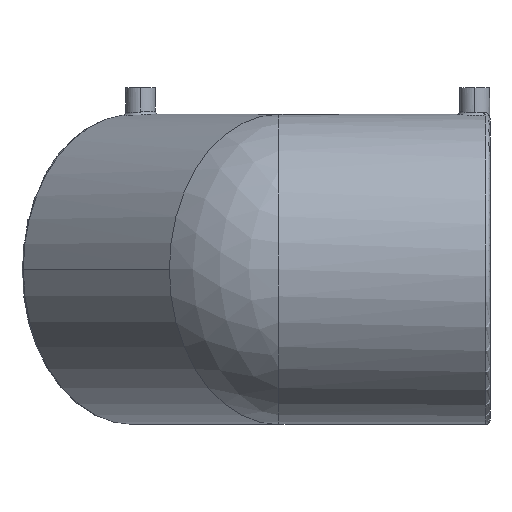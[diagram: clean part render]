
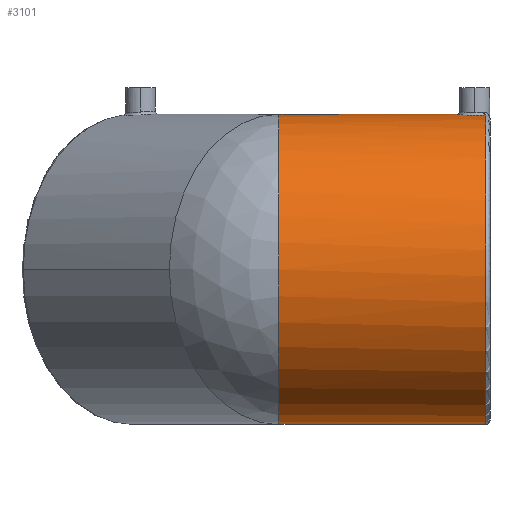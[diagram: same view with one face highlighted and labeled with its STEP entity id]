
A CAD part, left-side view. The second image highlights one B-rep face of the part: STEP entity #3101.
In plain terms, the highlighted cylindrical face has radius 106.5 mm (diameter 213 mm), a partial arc.
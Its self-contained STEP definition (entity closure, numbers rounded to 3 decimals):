
#211 = AXIS2_PLACEMENT_3D ( 'NONE', #2670, #2149, #2028 ) ;
#213 = ORIENTED_EDGE ( 'NONE', *, *, #873, .T. ) ;
#313 = CARTESIAN_POINT ( 'NONE',  ( 0., -142., -106.5 ) ) ;
#330 = AXIS2_PLACEMENT_3D ( 'NONE', #2489, #2562, #2586 ) ;
#386 = AXIS2_PLACEMENT_3D ( 'NONE', #827, #896, #776 ) ;
#535 = VERTEX_POINT ( 'NONE', #313 ) ;
#623 = CYLINDRICAL_SURFACE ( 'NONE', #386, 106.5 ) ;
#771 = EDGE_CURVE ( 'NONE', #535, #2143, #1236, .T. ) ;
#776 = DIRECTION ( 'NONE',  ( 0., 0., 1. ) ) ;
#782 = DIRECTION ( 'NONE',  ( 0., 1., 0. ) ) ;
#827 = CARTESIAN_POINT ( 'NONE',  ( 0., -145., 0. ) ) ;
#873 = EDGE_CURVE ( 'NONE', #2304, #3175, #1182, .T. ) ;
#896 = DIRECTION ( 'NONE',  ( 0., 1., 0. ) ) ;
#952 = CIRCLE ( 'NONE', #211, 106.5 ) ;
#1018 = CARTESIAN_POINT ( 'NONE',  ( 0., 0., -106.5 ) ) ;
#1054 = CIRCLE ( 'NONE', #330, 106.5 ) ;
#1182 = LINE ( 'NONE', #2500, #1189 ) ;
#1189 = VECTOR ( 'NONE', #2488, 1000. ) ;
#1227 = EDGE_CURVE ( 'NONE', #535, #3006, #1054, .T. ) ;
#1232 = EDGE_CURVE ( 'NONE', #3006, #2304, #1711, .T. ) ;
#1233 = VECTOR ( 'NONE', #782, 1000. ) ;
#1236 = LINE ( 'NONE', #3257, #1233 ) ;
#1267 = EDGE_CURVE ( 'NONE', #2143, #3175, #952, .T. ) ;
#1566 = CARTESIAN_POINT ( 'NONE',  ( 0., 0., 106.5 ) ) ;
#1711 = B_SPLINE_CURVE_WITH_KNOTS ( 'NONE', 3,
 ( #2485, #2294, #2609, #2642, #2659, #2667, #2678, #2682, #2689, #2692, #2698, #2710, #2724, #2748, #2758, #2777, #2792, #2812, #2840, #2877, #2885, #2896, #2906, #2921, #2935, #2941, #2951, #2968, #2982, #3001, #3011, #3025, #3060, #3067, #3144, #3177 ),
 .UNSPECIFIED., .F., .F.,
 ( 4, 2, 2, 2, 2, 2, 2, 2, 2, 2, 2, 2, 2, 2, 2, 2, 2, 4 ),
 ( 0., 0.003, 0.005, 0.007, 0.008, 0.008, 0.01, 0.012, 0.013, 0.014, 0.015, 0.016, 0.017, 0.02, 0.022, 0.024, 0.025, 0.027 ),
 .UNSPECIFIED. ) ;
#2028 = DIRECTION ( 'NONE',  ( 0., 0., 1. ) ) ;
#2143 = VERTEX_POINT ( 'NONE', #1018 ) ;
#2149 = DIRECTION ( 'NONE',  ( 0., 1., 0. ) ) ;
#2294 = CARTESIAN_POINT ( 'NONE',  ( -10.197, -141.093, 106.013 ) ) ;
#2304 = VERTEX_POINT ( 'NONE', #2618 ) ;
#2485 = CARTESIAN_POINT ( 'NONE',  ( -9.507, -142., 106.075 ) ) ;
#2488 = DIRECTION ( 'NONE',  ( 0., 1., 0. ) ) ;
#2489 = CARTESIAN_POINT ( 'NONE',  ( 0., -142., 0. ) ) ;
#2500 = CARTESIAN_POINT ( 'NONE',  ( 0., -145., 106.5 ) ) ;
#2545 = EDGE_LOOP ( 'NONE', ( #2926, #3264, #3064, #213, #3218 ) ) ;
#2554 = CARTESIAN_POINT ( 'NONE',  ( -9.507, -142., 106.075 ) ) ;
#2562 = DIRECTION ( 'NONE',  ( 0., 1., 0. ) ) ;
#2586 = DIRECTION ( 'NONE',  ( 0., 0., 1. ) ) ;
#2609 = CARTESIAN_POINT ( 'NONE',  ( -10.746, -140.111, 105.957 ) ) ;
#2618 = CARTESIAN_POINT ( 'NONE',  ( 0., -122.25, 106.5 ) ) ;
#2642 = CARTESIAN_POINT ( 'NONE',  ( -11.368, -138.532, 105.892 ) ) ;
#2659 = CARTESIAN_POINT ( 'NONE',  ( -11.541, -137.985, 105.873 ) ) ;
#2667 = CARTESIAN_POINT ( 'NONE',  ( -11.807, -136.887, 105.844 ) ) ;
#2670 = CARTESIAN_POINT ( 'NONE',  ( 0., 0., 0. ) ) ;
#2678 = CARTESIAN_POINT ( 'NONE',  ( -11.902, -136.333, 105.833 ) ) ;
#2682 = CARTESIAN_POINT ( 'NONE',  ( -11.988, -135.492, 105.823 ) ) ;
#2689 = CARTESIAN_POINT ( 'NONE',  ( -12.007, -135.21, 105.821 ) ) ;
#2692 = CARTESIAN_POINT ( 'NONE',  ( -12.027, -134.644, 105.819 ) ) ;
#2698 = CARTESIAN_POINT ( 'NONE',  ( -12.027, -134.358, 105.819 ) ) ;
#2710 = CARTESIAN_POINT ( 'NONE',  ( -11.997, -133.505, 105.822 ) ) ;
#2724 = CARTESIAN_POINT ( 'NONE',  ( -11.94, -132.944, 105.829 ) ) ;
#2748 = CARTESIAN_POINT ( 'NONE',  ( -11.749, -131.834, 105.85 ) ) ;
#2758 = CARTESIAN_POINT ( 'NONE',  ( -11.616, -131.286, 105.865 ) ) ;
#2777 = CARTESIAN_POINT ( 'NONE',  ( -11.36, -130.475, 105.892 ) ) ;
#2792 = CARTESIAN_POINT ( 'NONE',  ( -11.265, -130.206, 105.903 ) ) ;
#2812 = CARTESIAN_POINT ( 'NONE',  ( -11.057, -129.677, 105.925 ) ) ;
#2840 = CARTESIAN_POINT ( 'NONE',  ( -10.944, -129.418, 105.936 ) ) ;
#2877 = CARTESIAN_POINT ( 'NONE',  ( -10.582, -128.655, 105.973 ) ) ;
#2885 = CARTESIAN_POINT ( 'NONE',  ( -10.306, -128.164, 106.001 ) ) ;
#2896 = CARTESIAN_POINT ( 'NONE',  ( -9.842, -127.458, 106.044 ) ) ;
#2906 = CARTESIAN_POINT ( 'NONE',  ( -9.679, -127.227, 106.059 ) ) ;
#2921 = CARTESIAN_POINT ( 'NONE',  ( -9.336, -126.775, 106.09 ) ) ;
#2926 = ORIENTED_EDGE ( 'NONE', *, *, #771, .F. ) ;
#2935 = CARTESIAN_POINT ( 'NONE',  ( -9.155, -126.554, 106.106 ) ) ;
#2941 = CARTESIAN_POINT ( 'NONE',  ( -8.222, -125.489, 106.185 ) ) ;
#2951 = CARTESIAN_POINT ( 'NONE',  ( -7.372, -124.754, 106.249 ) ) ;
#2968 = CARTESIAN_POINT ( 'NONE',  ( -5.937, -123.832, 106.335 ) ) ;
#2982 = CARTESIAN_POINT ( 'NONE',  ( -5.438, -123.559, 106.362 ) ) ;
#3001 = CARTESIAN_POINT ( 'NONE',  ( -4.415, -123.091, 106.41 ) ) ;
#3006 = VERTEX_POINT ( 'NONE', #2554 ) ;
#3011 = CARTESIAN_POINT ( 'NONE',  ( -3.888, -122.894, 106.43 ) ) ;
#3025 = CARTESIAN_POINT ( 'NONE',  ( -2.805, -122.574, 106.464 ) ) ;
#3054 = FACE_OUTER_BOUND ( 'NONE', #2545, .T. ) ;
#3060 = CARTESIAN_POINT ( 'NONE',  ( -2.243, -122.451, 106.478 ) ) ;
#3064 = ORIENTED_EDGE ( 'NONE', *, *, #1232, .T. ) ;
#3067 = CARTESIAN_POINT ( 'NONE',  ( -1.124, -122.29, 106.496 ) ) ;
#3101 = ADVANCED_FACE ( 'NONE', ( #3054 ), #623, .T. ) ;
#3144 = CARTESIAN_POINT ( 'NONE',  ( -0.563, -122.25, 106.5 ) ) ;
#3175 = VERTEX_POINT ( 'NONE', #1566 ) ;
#3177 = CARTESIAN_POINT ( 'NONE',  ( 0., -122.25, 106.5 ) ) ;
#3218 = ORIENTED_EDGE ( 'NONE', *, *, #1267, .F. ) ;
#3257 = CARTESIAN_POINT ( 'NONE',  ( 0., -145., -106.5 ) ) ;
#3264 = ORIENTED_EDGE ( 'NONE', *, *, #1227, .T. ) ;
